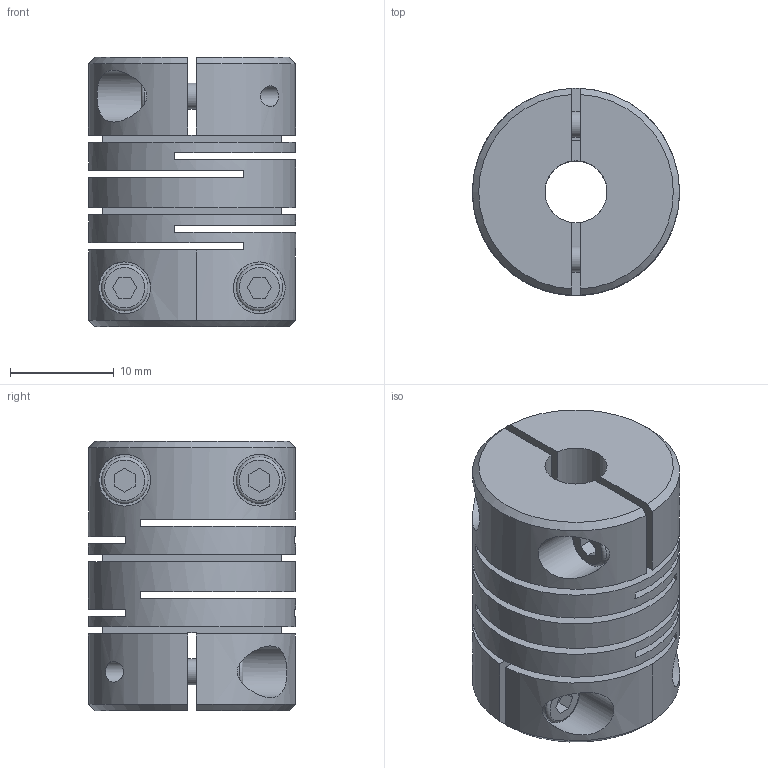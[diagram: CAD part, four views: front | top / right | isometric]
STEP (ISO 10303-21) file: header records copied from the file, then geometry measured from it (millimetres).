
FILE_DESCRIPTION (( 'STEP AP214' ), '1' );
FILE_NAME ('2246-20-B6-6-NI.step', '2022-05-27T09:30:52', ( '' ), ( '' ), 'SwSTEP 2.0', 'SolidWorks 2019', '' );
FILE_SCHEMA (( 'AUTOMOTIVE_DESIGN' ));
Length unit declared in the file: millimetre
Products named in the file (1): 2246-20-B6-6-NI
Bounding box: 20 x 20 x 26 mm (x, y, z)
Volume: 6031.3 mm3; surface area: 6106.3 mm2
Topology: 1 solids, 1 shells, 121 faces, 304 edges, 205 vertices
Faces by surface type: plane 78, cylinder 31, cone 8, torus 4
Full cylindrical faces by diameter (mm): 2.01 x4, 2.5 x4, 2.7 x4, 4.5 x4, 5 x4, 6 x5, 20 x1
Entity records: 4224 total; most frequent: CARTESIAN_POINT 933, DIRECTION 544, ORIENTED_EDGE 472, EDGE_CURVE 236, AXIS2_PLACEMENT_3D 203, EDGE_LOOP 196, VERTEX_POINT 176, FACE_OUTER_BOUND 150
